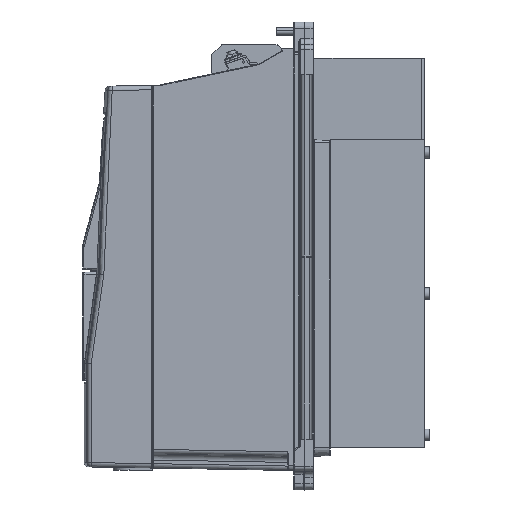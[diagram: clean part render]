
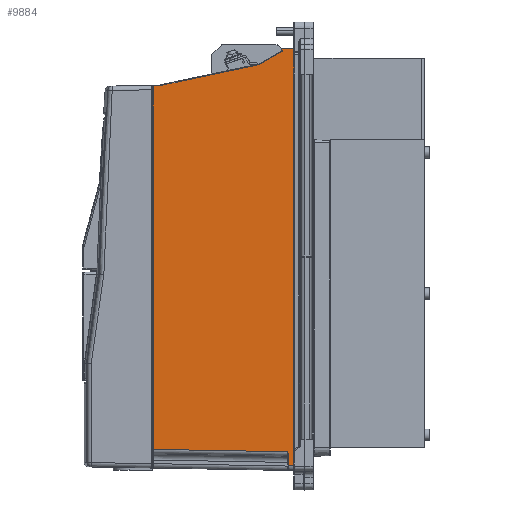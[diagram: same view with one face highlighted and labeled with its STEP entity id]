
A CAD part, left-side view. The second image highlights one B-rep face of the part: STEP entity #9884.
In plain terms, the highlighted planar face has unit normal (-1, 0.018, 0).
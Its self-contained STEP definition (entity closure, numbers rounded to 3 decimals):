
#41 = EDGE_CURVE ( 'NONE', #13949, #41284, #23915, .T. ) ;
#1426 = VERTEX_POINT ( 'NONE', #11708 ) ;
#3410 = AXIS2_PLACEMENT_3D ( 'NONE', #44030, #43540, #59236 ) ;
#4400 = CARTESIAN_POINT ( 'NONE',  ( -110.747, -49.956, -157.147 ) ) ;
#4511 = VERTEX_POINT ( 'NONE', #60324 ) ;
#6086 = VECTOR ( 'NONE', #27573, 1000. ) ;
#6637 = CARTESIAN_POINT ( 'NONE',  ( -110.658, -44.991, 166. ) ) ;
#7477 = ORIENTED_EDGE ( 'NONE', *, *, #97528, .T. ) ;
#8117 = VERTEX_POINT ( 'NONE', #6637 ) ;
#8355 = ORIENTED_EDGE ( 'NONE', *, *, #16810, .T. ) ;
#8372 = DIRECTION ( 'NONE',  ( 0., 0., -1. ) ) ;
#9884 = ADVANCED_FACE ( 'NONE', ( #73590 ), #81700, .F. ) ;
#11192 = CARTESIAN_POINT ( 'NONE',  ( -108.887, 53.646, 136.585 ) ) ;
#11311 = CARTESIAN_POINT ( 'NONE',  ( -110.658, -44.991, 164.784 ) ) ;
#11708 = CARTESIAN_POINT ( 'NONE',  ( -108.809, 58.009, 136.509 ) ) ;
#11897 = CARTESIAN_POINT ( 'NONE',  ( -108.809, 58.009, 170. ) ) ;
#11976 = EDGE_LOOP ( 'NONE', ( #36155, #8355, #96479, #16766, #29787, #86228, #13307, #16037, #84782, #70189, #26027, #7477, #22076, #53226 ) ) ;
#13118 = LINE ( 'NONE', #59889, #92279 ) ;
#13307 = ORIENTED_EDGE ( 'NONE', *, *, #64364, .T. ) ;
#13949 = VERTEX_POINT ( 'NONE', #71963 ) ;
#16037 = ORIENTED_EDGE ( 'NONE', *, *, #96962, .F. ) ;
#16185 = CARTESIAN_POINT ( 'NONE',  ( -110.326, -26.545, 153.611 ) ) ;
#16766 = ORIENTED_EDGE ( 'NONE', *, *, #80108, .F. ) ;
#16810 = EDGE_CURVE ( 'NONE', #67521, #8117, #51624, .T. ) ;
#17182 = CARTESIAN_POINT ( 'NONE',  ( -110.73, -49.009, -154.992 ) ) ;
#17681 = CARTESIAN_POINT ( 'NONE',  ( -110.738, -49.482, -155.814 ) ) ;
#22076 = ORIENTED_EDGE ( 'NONE', *, *, #41, .T. ) ;
#23915 = LINE ( 'NONE', #84964, #89133 ) ;
#24660 = LINE ( 'NONE', #48057, #34317 ) ;
#24792 =( BOUNDED_CURVE ( )  B_SPLINE_CURVE ( 3, ( #26581, #26067, #65228, #11311 ),
 .UNSPECIFIED., .F., .T. ) 
 B_SPLINE_CURVE_WITH_KNOTS ( ( 4, 4 ),
 ( 4.712, 5.76 ),
 .UNSPECIFIED. ) 
 CURVE ( )  GEOMETRIC_REPRESENTATION_ITEM ( )  RATIONAL_B_SPLINE_CURVE ( ( 1., 0.911, 0.911, 1. ) ) 
 REPRESENTATION_ITEM ( '' )  );
#25751 = CARTESIAN_POINT ( 'NONE',  ( -110.332, -26.837, 153.723 ) ) ;
#26027 = ORIENTED_EDGE ( 'NONE', *, *, #67441, .T. ) ;
#26067 = CARTESIAN_POINT ( 'NONE',  ( -110.654, -44.808, 164.1 ) ) ;
#26581 = CARTESIAN_POINT ( 'NONE',  ( -110.649, -44.491, 163.917 ) ) ;
#27056 = VERTEX_POINT ( 'NONE', #71034 ) ;
#27573 = DIRECTION ( 'NONE',  ( -0.018, -1., -0.017 ) ) ;
#27957 = EDGE_CURVE ( 'NONE', #41284, #80460, #75524, .T. ) ;
#29787 = ORIENTED_EDGE ( 'NONE', *, *, #93892, .T. ) ;
#34317 = VECTOR ( 'NONE', #8372, 1000. ) ;
#35947 = CARTESIAN_POINT ( 'NONE',  ( -110.649, -44.491, 163.917 ) ) ;
#36008 = CARTESIAN_POINT ( 'NONE',  ( -108.889, 53.518, 136.593 ) ) ;
#36155 = ORIENTED_EDGE ( 'NONE', *, *, #93255, .F. ) ;
#36470 = CARTESIAN_POINT ( 'NONE',  ( -110.747, -49.991, -157.617 ) ) ;
#36853 = CARTESIAN_POINT ( 'NONE',  ( -108.693, 64.434, -163.895 ) ) ;
#37960 = VECTOR ( 'NONE', #73158, 1000. ) ;
#39746 = CARTESIAN_POINT ( 'NONE',  ( -110.332, -26.837, 153.723 ) ) ;
#40154 = VERTEX_POINT ( 'NONE', #92964 ) ;
#41284 = VERTEX_POINT ( 'NONE', #52672 ) ;
#41584 = CARTESIAN_POINT ( 'NONE',  ( -108.926, 51.493, 137.024 ) ) ;
#42126 = CARTESIAN_POINT ( 'NONE',  ( -108.888, 53.582, 136.586 ) ) ;
#42626 = CARTESIAN_POINT ( 'NONE',  ( -108.81, 57.916, 136.51 ) ) ;
#42989 = VECTOR ( 'NONE', #93738, 1000. ) ;
#43540 = DIRECTION ( 'NONE',  ( 1., -0.018, 0. ) ) ;
#44015 =( BOUNDED_CURVE ( )  B_SPLINE_CURVE ( 3, ( #49773, #42126, #36008, #73195 ),
 .UNSPECIFIED., .F., .T. ) 
 B_SPLINE_CURVE_WITH_KNOTS ( ( 4, 4 ),
 ( 1.588, 1.78 ),
 .UNSPECIFIED. ) 
 CURVE ( )  GEOMETRIC_REPRESENTATION_ITEM ( )  RATIONAL_B_SPLINE_CURVE ( ( 1., 0.997, 0.997, 1. ) ) 
 REPRESENTATION_ITEM ( '' )  );
#44030 = CARTESIAN_POINT ( 'NONE',  ( -108.8, 58.5, 170. ) ) ;
#46339 = VERTEX_POINT ( 'NONE', #35947 ) ;
#47716 = VERTEX_POINT ( 'NONE', #25751 ) ;
#48057 = CARTESIAN_POINT ( 'NONE',  ( -110.658, -44.991, 170. ) ) ;
#48207 = CARTESIAN_POINT ( 'NONE',  ( -110.734, -49.246, -155.402 ) ) ;
#48708 = CARTESIAN_POINT ( 'NONE',  ( -110.743, -49.76, -156.465 ) ) ;
#49773 = CARTESIAN_POINT ( 'NONE',  ( -108.887, 53.646, 136.585 ) ) ;
#50636 = DIRECTION ( 'NONE',  ( 0.018, 1., 0. ) ) ;
#51624 = LINE ( 'NONE', #82680, #93610 ) ;
#52371 = EDGE_CURVE ( 'NONE', #8117, #27056, #24660, .T. ) ;
#52672 = CARTESIAN_POINT ( 'NONE',  ( -110.747, -49.991, -165.929 ) ) ;
#53226 = ORIENTED_EDGE ( 'NONE', *, *, #27957, .T. ) ;
#53480 = VECTOR ( 'NONE', #98915, 1000. ) ;
#56491 = CARTESIAN_POINT ( 'NONE',  ( -110.326, -26.545, 153.611 ) ) ;
#56948 = CARTESIAN_POINT ( 'NONE',  ( -110.819, -54., -166.001 ) ) ;
#59236 = DIRECTION ( 'NONE',  ( 0.018, 1., 0. ) ) ;
#59889 = CARTESIAN_POINT ( 'NONE',  ( -110.819, -54., 170. ) ) ;
#59923 = CARTESIAN_POINT ( 'NONE',  ( -110.33, -26.763, 153.681 ) ) ;
#60324 = CARTESIAN_POINT ( 'NONE',  ( -110.73, -49.009, -154.992 ) ) ;
#62549 = DIRECTION ( 'NONE',  ( 0., 0., -1. ) ) ;
#63830 = VECTOR ( 'NONE', #74649, 1000. ) ;
#64364 = EDGE_CURVE ( 'NONE', #77087, #40154, #88906, .T. ) ;
#65228 = CARTESIAN_POINT ( 'NONE',  ( -110.658, -44.991, 164.418 ) ) ;
#67441 = EDGE_CURVE ( 'NONE', #77666, #4511, #97279, .T. ) ;
#67521 = VERTEX_POINT ( 'NONE', #92642 ) ;
#70189 = ORIENTED_EDGE ( 'NONE', *, *, #95486, .T. ) ;
#71034 = CARTESIAN_POINT ( 'NONE',  ( -110.658, -44.991, 164.784 ) ) ;
#71963 = CARTESIAN_POINT ( 'NONE',  ( -110.747, -49.991, -157.617 ) ) ;
#73158 = DIRECTION ( 'NONE',  ( 0.018, 0.978, -0.208 ) ) ;
#73195 = CARTESIAN_POINT ( 'NONE',  ( -108.891, 53.455, 136.607 ) ) ;
#73409 = CARTESIAN_POINT ( 'NONE',  ( -108.699, 64.136, -153.017 ) ) ;
#73493 = EDGE_CURVE ( 'NONE', #77087, #47716, #83937, .T. ) ;
#73590 = FACE_OUTER_BOUND ( 'NONE', #11976, .T. ) ;
#74649 = DIRECTION ( 'NONE',  ( 0.018, 1., -0.017 ) ) ;
#75218 = DIRECTION ( 'NONE',  ( 0., 0., -1. ) ) ;
#75524 = LINE ( 'NONE', #36853, #53480 ) ;
#77087 = VERTEX_POINT ( 'NONE', #16185 ) ;
#77310 = EDGE_CURVE ( 'NONE', #94631, #1426, #98551, .T. ) ;
#77666 = VERTEX_POINT ( 'NONE', #89291 ) ;
#79414 = CARTESIAN_POINT ( 'NONE',  ( -110.33, -26.746, 153.671 ) ) ;
#79732 = CARTESIAN_POINT ( 'NONE',  ( -110.745, -49.84, -156.69 ) ) ;
#80108 = EDGE_CURVE ( 'NONE', #46339, #27056, #24792, .T. ) ;
#80460 = VERTEX_POINT ( 'NONE', #56948 ) ;
#81626 = LINE ( 'NONE', #11897, #42989 ) ;
#81700 = PLANE ( 'NONE',  #3410 ) ;
#81762 = B_SPLINE_CURVE_WITH_KNOTS ( 'NONE', 3,
 ( #17182, #48207, #17681, #48708, #79732, #4400, #81780, #36470 ),
 .UNSPECIFIED., .F., .F.,
 ( 4, 2, 2, 4 ),
 ( 0., 0.001, 0.002, 0.003 ),
 .UNSPECIFIED. ) ;
#81780 = CARTESIAN_POINT ( 'NONE',  ( -110.747, -49.991, -157.379 ) ) ;
#82388 = LINE ( 'NONE', #59923, #98822 ) ;
#82680 = CARTESIAN_POINT ( 'NONE',  ( -108.8, 58.5, 166. ) ) ;
#83937 =( BOUNDED_CURVE ( )  B_SPLINE_CURVE ( 3, ( #56491, #93715, #79414, #39746 ),
 .UNSPECIFIED., .F., .T. ) 
 B_SPLINE_CURVE_WITH_KNOTS ( ( 4, 4 ),
 ( 4.398, 4.712 ),
 .UNSPECIFIED. ) 
 CURVE ( )  GEOMETRIC_REPRESENTATION_ITEM ( )  RATIONAL_B_SPLINE_CURVE ( ( 1., 0.992, 0.992, 1. ) ) 
 REPRESENTATION_ITEM ( '' )  );
#84782 = ORIENTED_EDGE ( 'NONE', *, *, #77310, .T. ) ;
#84964 = CARTESIAN_POINT ( 'NONE',  ( -110.747, -49.991, -165.921 ) ) ;
#86228 = ORIENTED_EDGE ( 'NONE', *, *, #73493, .F. ) ;
#88906 = LINE ( 'NONE', #41584, #37960 ) ;
#89133 = VECTOR ( 'NONE', #62549, 1000. ) ;
#89291 = CARTESIAN_POINT ( 'NONE',  ( -108.809, 58.009, -153.124 ) ) ;
#92279 = VECTOR ( 'NONE', #75218, 1000. ) ;
#92642 = CARTESIAN_POINT ( 'NONE',  ( -110.819, -54., 166. ) ) ;
#92964 = CARTESIAN_POINT ( 'NONE',  ( -108.891, 53.455, 136.607 ) ) ;
#93255 = EDGE_CURVE ( 'NONE', #67521, #80460, #13118, .T. ) ;
#93610 = VECTOR ( 'NONE', #50636, 1000. ) ;
#93715 = CARTESIAN_POINT ( 'NONE',  ( -110.328, -26.648, 153.633 ) ) ;
#93738 = DIRECTION ( 'NONE',  ( 0., 0., -1. ) ) ;
#93892 = EDGE_CURVE ( 'NONE', #46339, #47716, #82388, .T. ) ;
#94631 = VERTEX_POINT ( 'NONE', #11192 ) ;
#95486 = EDGE_CURVE ( 'NONE', #1426, #77666, #81626, .T. ) ;
#96479 = ORIENTED_EDGE ( 'NONE', *, *, #52371, .T. ) ;
#96962 = EDGE_CURVE ( 'NONE', #94631, #40154, #44015, .T. ) ;
#97279 = LINE ( 'NONE', #73409, #6086 ) ;
#97528 = EDGE_CURVE ( 'NONE', #4511, #13949, #81762, .T. ) ;
#98551 = LINE ( 'NONE', #42626, #63830 ) ;
#98648 = DIRECTION ( 'NONE',  ( 0.016, 0.866, -0.5 ) ) ;
#98822 = VECTOR ( 'NONE', #98648, 1000. ) ;
#98915 = DIRECTION ( 'NONE',  ( -0.018, -1., -0.018 ) ) ;
